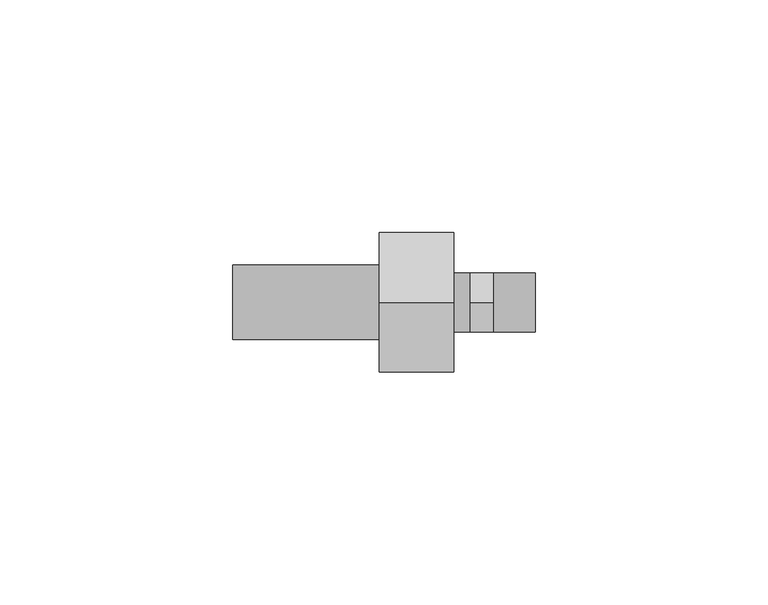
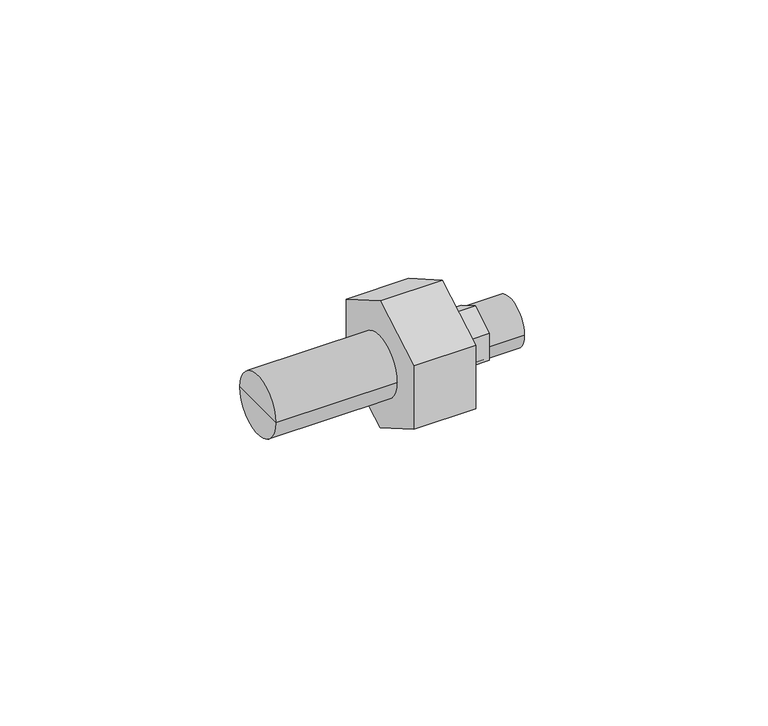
"""IFC4 building model written with IfcOpenShell, lengths in millimetres: pipe fitting geometry, KAN-therm PP śrubunek 1_2 : KAN-therm PP śrubunek 1_2."""

from ifc_helpers import new_model, si_unit, frame, origin, place, context, project, spatial, polyline, circle_curve, outline, extrude, source, transform, mapped, element, save
from ifc_brep_helpers import plane_surface, cylinder_surface, advanced_brep


def pipe_fitting_e24b1700(model_context):
    return source(origin(), model_context, "Body", "SolidModel", [
        extrude(outline(polyline([(0.0, -7.3323484), (-6.35, -3.6661742), (-6.35, 3.6661742), (0.0, 7.3323484), (6.35, 3.6661742), (6.35, -3.6661742), (0.0, -7.3323484)])), frame((37.7, 0.0, 0.0), z_axis=(1.0, 0.0, 0.0), x_axis=(0.0, 1.0, 0.0)), (0.0, 0.0, 1.0), 5.0),
        extrude(outline(polyline([(0.0, -17.3205081), (-15.0, -8.660254), (-15.0, 8.660254), (0.0, 17.3205081), (15.0, 8.660254), (15.0, -8.660254), (0.0, -17.3205081)])), frame((18.2, 0.0, 0.0), z_axis=(1.0, 0.0, 0.0), x_axis=(0.0, 1.0, 0.0)), (0.0, 0.0, 1.0), 16.0),
        advanced_brep(
        [(-13.3, 0.0, 0.0), (-13.3, 8.0, 0.0), (-13.3, -8.0, 0.0), (18.2, -8.0, 0.0), (18.2, 8.0, 0.0), (18.2, 0.0, 0.0)],
        [
            (0, 1),
            (1, 2, circle_curve(frame((-13.3, 0.0, 0.0), z_axis=(-1.0, 0.0, 0.0), x_axis=(0.0, 1.0, 0.0)), 8.0)),
            (2, 0),
            (2, 1, circle_curve(frame((-13.3, 0.0, 0.0), z_axis=(-1.0, 0.0, 0.0), x_axis=(0.0, 1.0, 0.0)), 8.0)),
            (3, 4, circle_curve(frame((18.2, 0.0, 0.0), z_axis=(1.0, 0.0, 0.0), x_axis=(0.0, 1.0, 0.0)), 8.0)),
            (4, 5),
            (5, 3),
            (4, 3, circle_curve(frame((18.2, 0.0, 0.0), z_axis=(1.0, 0.0, 0.0), x_axis=(0.0, 1.0, 0.0)), 8.0)),
            (1, 4),
            (3, 2),
        ],
        [
            plane_surface(frame((-13.3, 0.0, 0.0), z_axis=(-1.0, 0.0, 0.0), x_axis=(0.0, 1.0, 0.0))),
            plane_surface(frame((18.2, 0.0, 0.0), z_axis=(1.0, 0.0, 0.0), x_axis=(0.0, 1.0, 0.0))),
            cylinder_surface(frame((2000.0, 0.0, 0.0), z_axis=(-1.0, 0.0, 0.0), x_axis=(0.0, 1.0, 0.0)), 8.0),
        ],
        [
            (0, [[1, 2, 3]]),
            (0, [[-3, 4, -1]]),
            (1, [[5, 6, 7]]),
            (1, [[8, -7, -6]]),
            (2, [[-2, 9, -5, 10]]),
            (2, [[-4, -10, -8, -9]]),
        ],
    ),
        advanced_brep(
        [(51.7, -6.35, 0.0), (51.7, 6.35, 0.0), (51.7, 0.0, 0.0), (34.2, -6.35, 0.0), (34.2, 6.35, 0.0), (34.2, 0.0, 0.0)],
        [
            (0, 1, circle_curve(frame((51.7, 0.0, 0.0), z_axis=(1.0, 0.0, 0.0), x_axis=(0.0, 1.0, 0.0)), 6.35)),
            (1, 2),
            (2, 0),
            (1, 0, circle_curve(frame((51.7, 0.0, 0.0), z_axis=(1.0, 0.0, 0.0), x_axis=(0.0, 1.0, 0.0)), 6.35)),
            (3, 4, circle_curve(frame((34.2, 0.0, 0.0), z_axis=(1.0, 0.0, 0.0), x_axis=(0.0, 1.0, 0.0)), 6.35)),
            (4, 1),
            (0, 3),
            (4, 3, circle_curve(frame((34.2, 0.0, 0.0), z_axis=(1.0, 0.0, 0.0), x_axis=(0.0, 1.0, 0.0)), 6.35)),
            (5, 4),
            (3, 5),
        ],
        [
            plane_surface(frame((51.7, 0.0, 0.0), z_axis=(1.0, 0.0, 0.0), x_axis=(0.0, 1.0, 0.0))),
            cylinder_surface(frame((1365.442668, 0.0, 0.0), z_axis=(-1.0, 0.0, 0.0), x_axis=(0.0, 1.0, 0.0)), 6.35),
            plane_surface(frame((34.2, 0.0, 0.0), z_axis=(-1.0, 0.0, 0.0), x_axis=(0.0, 1.0, 0.0))),
        ],
        [
            (0, [[1, 2, 3]]),
            (0, [[4, -3, -2]]),
            (1, [[5, 6, -1, 7]]),
            (1, [[8, -7, -4, -6]]),
            (2, [[9, -5, 10]]),
            (2, [[-10, -8, -9]]),
        ],
    ),
    ])


if __name__ == "__main__":
    model = new_model("IFC4")
    model_context = context("Model", 3, world=origin())
    ifc_project = project(units=[si_unit("LENGTHUNIT", "METRE", prefix="MILLI")], contexts=[model_context])
    site = spatial("IfcSite", under=ifc_project)
    building = spatial("IfcBuilding", under=site)
    placement = place(None, origin())
    pipe_fitting_shape = pipe_fitting_e24b1700(model_context)
    element("IfcPipeFitting", 1, ObjectType="KAN-therm PP śrubunek 1_2 : KAN-therm PP śrubunek 1_2", at=placement, inside=building, context=model_context, shape_type="MappedRepresentation", body=[
        mapped(pipe_fitting_shape, transform((0.0, 0.0, 0.0), x_axis=(1.0, 0.0, 0.0), y_axis=(0.0, 1.0, 0.0), z_axis=(0.0, 0.0, 1.0))),
    ])
    save(model, "model.ifc")
